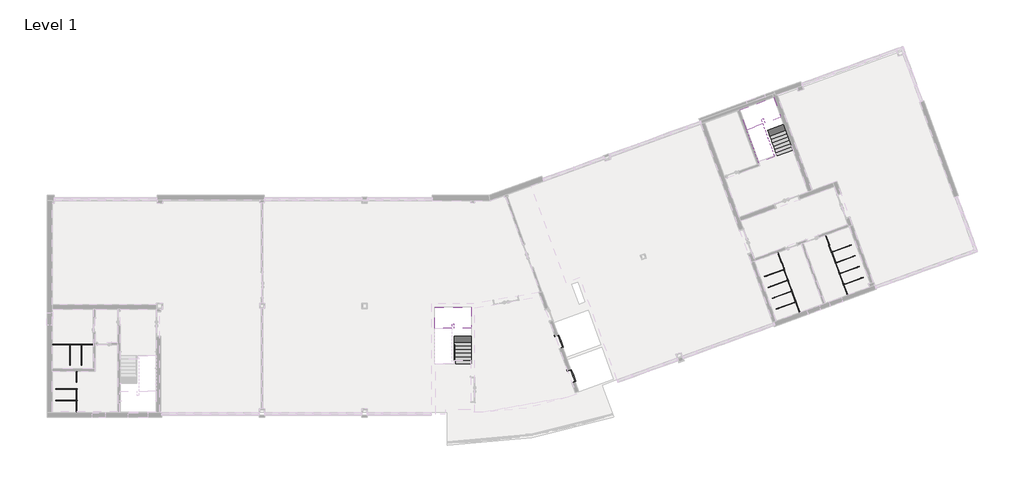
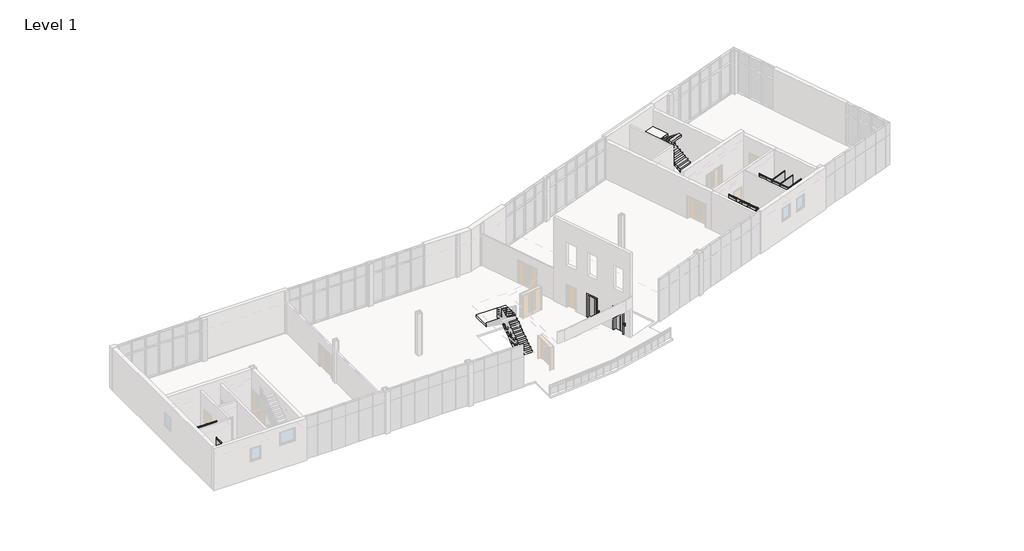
# One storey, part 12 of 12: 19 flow terminals, 3 stair flights, 2 proxies, 2 slabs.
"""IFC4 building model written with IfcOpenShell, lengths in millimetres."""

from ifc_helpers import new_model, si_unit, frame, origin, place, context, project, spatial, polyline, outline, extrude, faceted_brep, transform, mapped, element, save
from components import specialty_equipment_lift_assembly_13_person_wide_car_fb916a52, flow_terminal_2100mm_height_12b2e6eb, flow_terminal_2100mm_height_2c32aa6e, flow_terminal_2100mm_height_1f2eed72, flow_terminal_2100mm_height_0595ce71, flow_terminal_2100mm_height_6680c838, plumbing_fixtures_cubicle_corner_end_2100mm_height_8010d271, plumbing_fixtures_cubicle_corner_end_2100mm_height_71efdfa1

model = new_model("IFC4")

# Units and contexts
model_context = context("Model", 3, world=origin())
ifc_project = project(units=[si_unit("LENGTHUNIT", "METRE", prefix="MILLI")], contexts=[model_context])

# Site, building, storey
site = spatial("IfcSite", under=ifc_project)
building = spatial("IfcBuilding", under=site)
storey = spatial("IfcBuildingStorey", under=building, Name="Level 1", Elevation=3900.0)

# Proxies
placement = place(None, origin())
specialty_equipment_lift_assembly_13_person_wide_car_shape = specialty_equipment_lift_assembly_13_person_wide_car_fb916a52(model_context)
element("IfcBuildingElementProxy", 1, Name="Specialty_Equipment_Lift_Assembly : 13_Person-Wide_Car", ObjectType="Specialty_Equipment_Lift_Assembly : 13_Person-Wide_Car", at=placement, inside=storey, context=model_context, shape_type="MappedRepresentation", body=[
    mapped(specialty_equipment_lift_assembly_13_person_wide_car_shape, transform((36402.6729076, 5528.4769866, 3900.0), x_axis=(-0.34202014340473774, 0.9396926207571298, 0.0), y_axis=(-0.9396926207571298, -0.34202014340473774, 0.0), z_axis=(0.0, 0.0, 1.0))),
])
element("IfcBuildingElementProxy", 2, Name="Specialty_Equipment_Lift_Assembly : 13_Person-Wide_Car", ObjectType="Specialty_Equipment_Lift_Assembly : 13_Person-Wide_Car", at=placement, inside=storey, context=model_context, shape_type="MappedRepresentation", body=[
    mapped(specialty_equipment_lift_assembly_13_person_wide_car_shape, transform((37291.5468029, 3086.3160311, 3900.0), x_axis=(-0.34202014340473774, 0.9396926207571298, 0.0), y_axis=(-0.9396926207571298, -0.34202014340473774, 0.0), z_axis=(0.0, 0.0, 1.0))),
])

# Flow terminals
flow_terminal_2100mm_height_shape = flow_terminal_2100mm_height_12b2e6eb(model_context)
element("IfcFlowTerminal", 3, ObjectType="Plumbing_Fixtures_Toilet_Cubicle_End_Adjacent_Wall : 2100mm_Height", at=placement, inside=storey, context=model_context, shape_type="MappedRepresentation", body=[
    mapped(flow_terminal_2100mm_height_shape, transform((50541.393351, 10685.9180507, 3900.0), x_axis=(-0.3420201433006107, 0.9396926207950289, 0.0), y_axis=(-0.9396926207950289, -0.3420201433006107, 0.0), z_axis=(0.0, 0.0, 1.0))),
])
element("IfcFlowTerminal", 4, ObjectType="Plumbing_Fixtures_Toilet_Cubicle_End_Adjacent_Wall : 2100mm_Height", at=placement, inside=storey, context=model_context, shape_type="MappedRepresentation", body=[
    mapped(flow_terminal_2100mm_height_shape, transform((383.0, 2814.5689301, 3900.0), x_axis=(2.5442148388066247e-11, 1.0, 0.0), y_axis=(-1.0, 2.5442148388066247e-11, 0.0), z_axis=(0.0, 0.0, 1.0))),
])
element("IfcFlowTerminal", 5, ObjectType="Plumbing_Fixtures_Toilet_Cubicle_End_Adjacent_Wall : 2100mm_Height", at=placement, inside=storey, context=model_context, shape_type="MappedRepresentation", body=[
    mapped(flow_terminal_2100mm_height_shape, transform((830.9310712, 3326.5000005, 3900.0), x_axis=(-1.0, 2.5443536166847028e-11, 0.0), y_axis=(-2.5443536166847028e-11, -1.0, 0.0), z_axis=(0.0, 0.0, 1.0))),
])
flow_terminal_2100mm_height_2_shape = flow_terminal_2100mm_height_2c32aa6e(model_context)
element("IfcFlowTerminal", 6, ObjectType="Plumbing_Fixtures_Toilet_Cubicle_End_Adjacent_Wall : 2100mm_Height", at=placement, inside=storey, context=model_context, shape_type="MappedRepresentation", body=[
    mapped(flow_terminal_2100mm_height_2_shape, transform((57283.6879051, 13139.9125789, 3900.0), x_axis=(-0.3420201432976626, 0.9396926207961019, 0.0), y_axis=(-0.9396926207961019, -0.3420201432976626, 0.0), z_axis=(0.0, 0.0, 1.0))),
])
flow_terminal_2100mm_height_3_shape = flow_terminal_2100mm_height_1f2eed72(model_context)
element("IfcFlowTerminal", 7, ObjectType="Plumbing_Fixtures_Toile_Cubicle_Extension_Panel : 2100mm_Height", at=placement, inside=storey, context=model_context, shape_type="MappedRepresentation", body=[
    mapped(flow_terminal_2100mm_height_3_shape, transform((50976.9218015, 9489.3134675, 3900.0), x_axis=(-0.34202014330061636, 0.9396926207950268, 0.0), y_axis=(-0.9396926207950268, -0.34202014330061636, 0.0), z_axis=(0.0, 0.0, 1.0))),
])
flow_terminal_2100mm_height_4_shape = flow_terminal_2100mm_height_0595ce71(model_context)
element("IfcFlowTerminal", 8, ObjectType="Plumbing_Fixtures_Toile_Cubicle_Extension_Panel : 2100mm_Height", at=placement, inside=storey, context=model_context, shape_type="MappedRepresentation", body=[
    mapped(flow_terminal_2100mm_height_4_shape, transform((57719.2163556, 11943.3079956, 3900.0), x_axis=(-0.3420201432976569, 0.9396926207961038, 0.0), y_axis=(-0.9396926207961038, -0.3420201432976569, 0.0), z_axis=(0.0, 0.0, 1.0))),
])
flow_terminal_2100mm_height_5_shape = flow_terminal_2100mm_height_6680c838(model_context)
element("IfcFlowTerminal", 9, ObjectType="Plumbing_Fixtures_Toile_Cubicle_Extension_Panel : 2100mm_Height", at=placement, inside=storey, context=model_context, shape_type="MappedRepresentation", body=[
    mapped(flow_terminal_2100mm_height_5_shape, transform((2080.4310713, 3326.5000005, 3900.0), x_axis=(-1.0, 0.0, 0.0), y_axis=(0.0, -1.0, 0.0), z_axis=(0.0, 0.0, 1.0))),
])
plumbing_fixtures_cubicle_corner_end_2100mm_height_shape = plumbing_fixtures_cubicle_corner_end_2100mm_height_8010d271(model_context)
element("IfcFlowTerminal", 10, ObjectType="Plumbing_Fixtures_Cubicle_Corner_End : 2100mm_Height", at=placement, inside=storey, context=model_context, shape_type="MappedRepresentation", body=[
    mapped(plumbing_fixtures_cubicle_corner_end_2100mm_height_shape, transform((58572.2617435, 9599.5850544, 3900.0), x_axis=(0.3420201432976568, -0.9396926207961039, 0.0), y_axis=(0.9396926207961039, 0.3420201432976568, 0.0), z_axis=(0.0, 0.0, 1.0))),
])
element("IfcFlowTerminal", 11, ObjectType="Plumbing_Fixtures_Cubicle_Corner_End : 2100mm_Height", at=placement, inside=storey, context=model_context, shape_type="MappedRepresentation", body=[
    mapped(plumbing_fixtures_cubicle_corner_end_2100mm_height_shape, transform((58291.805226, 10370.1330034, 3900.0), x_axis=(0.3420201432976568, -0.9396926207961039, 0.0), y_axis=(0.9396926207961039, 0.3420201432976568, 0.0), z_axis=(0.0, 0.0, 1.0))),
])
element("IfcFlowTerminal", 12, ObjectType="Plumbing_Fixtures_Cubicle_Corner_End : 2100mm_Height", at=placement, inside=storey, context=model_context, shape_type="MappedRepresentation", body=[
    mapped(plumbing_fixtures_cubicle_corner_end_2100mm_height_shape, transform((58011.3487085, 11140.6809525, 3900.0), x_axis=(0.3420201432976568, -0.9396926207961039, 0.0), y_axis=(0.9396926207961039, 0.3420201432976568, 0.0), z_axis=(0.0, 0.0, 1.0))),
])
element("IfcFlowTerminal", 13, ObjectType="Plumbing_Fixtures_Cubicle_Corner_End : 2100mm_Height", at=placement, inside=storey, context=model_context, shape_type="MappedRepresentation", body=[
    mapped(plumbing_fixtures_cubicle_corner_end_2100mm_height_shape, transform((57730.892191, 11911.2289015, 3900.0), x_axis=(0.3420201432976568, -0.9396926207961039, 0.0), y_axis=(0.9396926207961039, 0.3420201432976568, 0.0), z_axis=(0.0, 0.0, 1.0))),
])
plumbing_fixtures_cubicle_corner_end_2100mm_height_2_shape = plumbing_fixtures_cubicle_corner_end_2100mm_height_71efdfa1(model_context)
element("IfcFlowTerminal", 14, ObjectType="Plumbing_Fixtures_Cubicle_Corner_End : 2100mm_Height", at=placement, inside=storey, context=model_context, shape_type="MappedRepresentation", body=[
    mapped(plumbing_fixtures_cubicle_corner_end_2100mm_height_2_shape, transform((51829.9671894, 7145.5905262, 3900.0), x_axis=(0.3420201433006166, -0.9396926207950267, 0.0), y_axis=(0.9396926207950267, 0.3420201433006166, 0.0), z_axis=(0.0, 0.0, 1.0))),
])
element("IfcFlowTerminal", 15, ObjectType="Plumbing_Fixtures_Cubicle_Corner_End : 2100mm_Height", at=placement, inside=storey, context=model_context, shape_type="MappedRepresentation", body=[
    mapped(plumbing_fixtures_cubicle_corner_end_2100mm_height_2_shape, transform((51549.5106719, 7916.1384753, 3900.0), x_axis=(0.3420201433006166, -0.9396926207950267, 0.0), y_axis=(0.9396926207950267, 0.3420201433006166, 0.0), z_axis=(0.0, 0.0, 1.0))),
])
element("IfcFlowTerminal", 16, ObjectType="Plumbing_Fixtures_Cubicle_Corner_End : 2100mm_Height", at=placement, inside=storey, context=model_context, shape_type="MappedRepresentation", body=[
    mapped(plumbing_fixtures_cubicle_corner_end_2100mm_height_2_shape, transform((51269.0541544, 8686.6864243, 3900.0), x_axis=(0.3420201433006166, -0.9396926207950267, 0.0), y_axis=(0.9396926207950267, 0.3420201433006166, 0.0), z_axis=(0.0, 0.0, 1.0))),
])
element("IfcFlowTerminal", 17, ObjectType="Plumbing_Fixtures_Cubicle_Corner_End : 2100mm_Height", at=placement, inside=storey, context=model_context, shape_type="MappedRepresentation", body=[
    mapped(plumbing_fixtures_cubicle_corner_end_2100mm_height_2_shape, transform((50988.5976369, 9457.2343734, 3900.0), x_axis=(0.3420201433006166, -0.9396926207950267, 0.0), y_axis=(0.9396926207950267, 0.3420201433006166, 0.0), z_axis=(0.0, 0.0, 1.0))),
])
element("IfcFlowTerminal", 18, ObjectType="Plumbing_Fixtures_Cubicle_Corner_End : 2100mm_Height", at=placement, inside=storey, context=model_context, shape_type="MappedRepresentation", body=[
    mapped(plumbing_fixtures_cubicle_corner_end_2100mm_height_2_shape, transform((383.0, 710.9310711, 3900.0), x_axis=(-2.5442148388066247e-11, -1.0, 0.0), y_axis=(1.0, -2.5442148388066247e-11, 0.0), z_axis=(0.0, 0.0, 1.0))),
])
element("IfcFlowTerminal", 19, ObjectType="Plumbing_Fixtures_Cubicle_Corner_End : 2100mm_Height", at=placement, inside=storey, context=model_context, shape_type="MappedRepresentation", body=[
    mapped(plumbing_fixtures_cubicle_corner_end_2100mm_height_2_shape, transform((383.0, 1530.9310711, 3900.0), x_axis=(-2.5442148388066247e-11, -1.0, 0.0), y_axis=(1.0, -2.5442148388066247e-11, 0.0), z_axis=(0.0, 0.0, 1.0))),
])
element("IfcFlowTerminal", 20, ObjectType="Plumbing_Fixtures_Cubicle_Corner_End : 2100mm_Height", at=placement, inside=storey, context=model_context, shape_type="MappedRepresentation", body=[
    mapped(plumbing_fixtures_cubicle_corner_end_2100mm_height_2_shape, transform((2934.5689301, 3326.5000005, 3900.0), x_axis=(1.0, -2.5443536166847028e-11, 0.0), y_axis=(2.5443536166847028e-11, 1.0, 0.0), z_axis=(0.0, 0.0, 1.0))),
])
element("IfcFlowTerminal", 21, ObjectType="Plumbing_Fixtures_Cubicle_Corner_End : 2100mm_Height", at=placement, inside=storey, context=model_context, shape_type="MappedRepresentation", body=[
    mapped(plumbing_fixtures_cubicle_corner_end_2100mm_height_2_shape, transform((2114.5689301, 3326.5000005, 3900.0), x_axis=(1.0, -2.5443536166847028e-11, 0.0), y_axis=(2.5443536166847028e-11, 1.0, 0.0), z_axis=(0.0, 0.0, 1.0))),
])

# Slabs
element("IfcSlab", 22, ObjectType="200mm_Thickness", at=placement, inside=storey, context=model_context, shape_type="SolidModel", body=[
    faceted_brep([(29052.2000029, 6263.2000006, 5849.0), (30252.200003, 6263.2000006, 5849.0), (30252.200003, 6490.4719159, 5849.0), (30252.200003, 7763.2000004, 5849.0), (27662.2000031, 7763.2000004, 5849.0), (27662.2000031, 6285.9280852, 5849.0), (27662.2000031, 6263.2000006, 5849.0), (28862.2000029, 6263.2000006, 5849.0), (28862.2000029, 6285.9280852, 5849.0), (28862.2000029, 6563.2000006, 5849.0), (29052.2000029, 6563.2000006, 5849.0), (29052.2000029, 6490.4719159, 5849.0), (29052.2000029, 6263.2000006, 5487.8435509), (29052.2000029, 6263.2000006, 5671.7272727), (29052.2000029, 6563.2000006, 5649.0), (29052.2000029, 6490.4719159, 5649.0), (30252.200003, 6263.2000006, 5671.7272727), (30252.200003, 6263.2000006, 5487.8435509), (30252.200003, 6490.4719159, 5649.0), (30252.200003, 7763.2000004, 5649.0), (28862.2000029, 6263.2000006, 5665.1162782), (28862.2000029, 6285.9280852, 5649.0), (28862.2000029, 6563.2000006, 5649.0), (27662.2000031, 6285.9280852, 5649.0), (27662.2000031, 7763.2000004, 5649.0), (27662.2000031, 6263.2000006, 5665.1162782)], [[[0, 1, 2, 3, 4, 5, 6, 7, 8, 9, 10, 11]], [[12, 13, 0, 11, 10, 14, 15]], [[1, 16, 17, 18, 19, 3, 2]], [[7, 20, 21, 22, 9, 8]], [[18, 15, 14, 22, 21, 23, 24, 19]], [[15, 18, 17, 12]], [[23, 21, 20, 25]], [[1, 0, 13, 12, 17, 16]], [[4, 3, 19, 24]], [[4, 24, 23, 25, 6, 5]], [[7, 6, 25, 20]], [[10, 9, 22, 14]]]),
    extrude(outline(polyline([(29052.2000029, 6263.2000006), (29052.2000029, 6563.2000006), (28862.2000029, 6563.2000006), (28862.2000029, 6263.2000006), (27662.2000031, 6263.2000006), (27662.2000031, 7763.2000004), (30252.200003, 7763.2000004), (30252.200003, 6263.2000006), (29052.2000029, 6263.2000006)])), frame((0.0, 0.0, 5849.0), z_axis=(0.0, 0.0, 1.0), x_axis=(1.0, 0.0, 0.0)), (0.0, 0.0, 1.0), 1.0),
])
element("IfcSlab", 23, ObjectType="200mm_Thickness", at=placement, inside=storey, context=model_context, shape_type="SolidModel", body=[
    faceted_brep([(51174.021156, 20890.1085605, 5849.0), (52301.652301, 21300.5327324, 5849.0), (52223.920728, 21514.0984742, 5849.0), (51788.6220861, 22710.0716635, 5849.0), (49354.8181983, 21824.2394924, 5849.0), (49860.0749505, 20436.0579748, 5849.0), (49867.8484132, 20414.7005613, 5849.0), (50995.479558, 20825.1247332, 5849.0), (50987.7060952, 20846.4821467, 5849.0), (50892.873515, 21107.0325195, 5849.0), (51071.415113, 21172.0163467, 5849.0), (51096.2895829, 21103.6743022, 5849.0), (51174.021156, 20890.1085605, 5487.8435509), (51174.021156, 20890.1085605, 5671.7272727), (51071.415113, 21172.0163467, 5649.0), (51096.2895829, 21103.6743022, 5649.0), (52301.652301, 21300.5327324, 5671.7272727), (52301.652301, 21300.5327324, 5487.8435509), (52223.920728, 21514.0984742, 5649.0), (51788.6220861, 22710.0716635, 5649.0), (50995.479558, 20825.1247332, 5665.1162782), (50987.7060952, 20846.4821467, 5649.0), (50892.873515, 21107.0325195, 5649.0), (49860.0749505, 20436.0579748, 5649.0), (49354.8181983, 21824.2394924, 5649.0), (49867.8484132, 20414.7005613, 5665.1162782)], [[[0, 1, 2, 3, 4, 5, 6, 7, 8, 9, 10, 11]], [[12, 13, 0, 11, 10, 14, 15]], [[1, 16, 17, 18, 19, 3, 2]], [[7, 20, 21, 22, 9, 8]], [[18, 15, 14, 22, 21, 23, 24, 19]], [[15, 18, 17, 12]], [[23, 21, 20, 25]], [[1, 0, 13, 12, 17, 16]], [[4, 3, 19, 24]], [[4, 24, 23, 25, 6, 5]], [[7, 6, 25, 20]], [[10, 9, 22, 14]]]),
    extrude(outline(polyline([(51174.021156, 20890.1085605), (51071.415113, 21172.0163467), (50892.873515, 21107.0325195), (50995.479558, 20825.1247332), (49867.8484132, 20414.7005613), (49354.8181983, 21824.2394924), (51788.6220861, 22710.0716635), (52301.652301, 21300.5327324), (51174.021156, 20890.1085605)])), frame((0.0, 0.0, 5849.0), z_axis=(0.0, 0.0, 1.0), x_axis=(1.0, 0.0, 0.0)), (0.0, 0.0, 1.0), 1.0),
])

# Stair flights
element("IfcStairFlight", 24, ObjectType="1mm_Tread-150mm_Depth", at=placement, inside=storey, context=model_context, shape_type="SolidModel", body=[
    faceted_brep([(29052.2000029, 4013.2000006, 4076.2727273), (29052.2000029, 3763.2000006, 4076.2727273), (30252.200003, 3763.2000006, 4076.2727273), (30252.200003, 4013.2000006, 4076.2727273), (29052.2000029, 4013.2000006, 3900.0), (29052.2000029, 3763.2000006, 3900.0), (30252.200003, 3763.2000006, 3900.0), (30252.200003, 4013.2000006, 3900.0), (29052.2000029, 4263.2000006, 4253.5454545), (29052.2000029, 4013.2000006, 4253.5454545), (30252.200003, 4013.2000006, 4253.5454545), (30252.200003, 4263.2000006, 4253.5454545), (29052.2000029, 4263.2000006, 4069.6617328), (29052.2000029, 4023.9334544, 3900.0), (30252.200003, 4023.9334544, 3900.0), (30252.200003, 4263.2000006, 4069.6617328), (29052.2000029, 4513.2000006, 4430.8181818), (29052.2000029, 4263.2000006, 4430.8181818), (30252.200003, 4263.2000006, 4430.8181818), (30252.200003, 4513.2000006, 4430.8181818), (29052.2000029, 4513.2000006, 4246.93446), (30252.200003, 4513.2000006, 4246.93446), (29052.2000029, 4763.2000006, 4608.0909091), (29052.2000029, 4513.2000006, 4608.0909091), (30252.200003, 4513.2000006, 4608.0909091), (30252.200003, 4763.2000006, 4608.0909091), (29052.2000029, 4763.2000006, 4424.2071873), (30252.200003, 4763.2000006, 4424.2071873), (29052.2000029, 5013.2000006, 4785.3636364), (29052.2000029, 4763.2000006, 4785.3636364), (30252.200003, 4763.2000006, 4785.3636364), (30252.200003, 5013.2000006, 4785.3636364), (29052.2000029, 5013.2000006, 4601.4799146), (30252.200003, 5013.2000006, 4601.4799146), (29052.2000029, 5263.2000006, 4962.6363636), (29052.2000029, 5013.2000006, 4962.6363636), (30252.200003, 5013.2000006, 4962.6363636), (30252.200003, 5263.2000006, 4962.6363636), (29052.2000029, 5263.2000006, 4778.7526418), (30252.200003, 5263.2000006, 4778.7526418), (29052.2000029, 5513.2000006, 5139.9090909), (29052.2000029, 5263.2000006, 5139.9090909), (30252.200003, 5263.2000006, 5139.9090909), (30252.200003, 5513.2000006, 5139.9090909), (29052.2000029, 5513.2000006, 4956.0253691), (30252.200003, 5513.2000006, 4956.0253691), (29052.2000029, 5763.2000006, 5317.1818182), (29052.2000029, 5513.2000006, 5317.1818182), (30252.200003, 5513.2000006, 5317.1818182), (30252.200003, 5763.2000006, 5317.1818182), (29052.2000029, 5763.2000006, 5133.2980964), (30252.200003, 5763.2000006, 5133.2980964), (29052.2000029, 6013.2000006, 5494.4545455), (29052.2000029, 5763.2000006, 5494.4545455), (30252.200003, 5763.2000006, 5494.4545455), (30252.200003, 6013.2000006, 5494.4545455), (29052.2000029, 6013.2000006, 5310.5708237), (30252.200003, 6013.2000006, 5310.5708237), (29052.2000029, 6263.2000006, 5487.8435509), (30252.200003, 6263.2000006, 5487.8435509), (29052.2000029, 6263.2000006, 5671.7272727), (29052.2000029, 6013.2000006, 5671.7272727), (30252.200003, 6013.2000006, 5671.7272727), (30252.200003, 6263.2000006, 5671.7272727)], [[[0, 1, 2, 3]], [[1, 0, 4, 5]], [[2, 1, 5, 6]], [[3, 2, 6, 7]], [[8, 9, 10, 11]], [[4, 0, 9, 8, 12, 13]], [[0, 3, 10, 9]], [[3, 7, 14, 15, 11, 10]], [[16, 17, 18, 19]], [[17, 16, 20, 12, 8]], [[8, 11, 18, 17]], [[19, 18, 11, 15, 21]], [[22, 23, 24, 25]], [[23, 22, 26, 20, 16]], [[16, 19, 24, 23]], [[25, 24, 19, 21, 27]], [[28, 29, 30, 31]], [[29, 28, 32, 26, 22]], [[22, 25, 30, 29]], [[31, 30, 25, 27, 33]], [[34, 35, 36, 37]], [[35, 34, 38, 32, 28]], [[28, 31, 36, 35]], [[37, 36, 31, 33, 39]], [[40, 41, 42, 43]], [[41, 40, 44, 38, 34]], [[34, 37, 42, 41]], [[43, 42, 37, 39, 45]], [[46, 47, 48, 49]], [[47, 46, 50, 44, 40]], [[40, 43, 48, 47]], [[49, 48, 43, 45, 51]], [[52, 53, 54, 55]], [[53, 52, 56, 50, 46]], [[46, 49, 54, 53]], [[55, 54, 49, 51, 57]], [[5, 4, 13, 14, 7, 6]], [[14, 13, 12, 20, 26, 32, 38, 44, 50, 56, 58, 59, 57, 51, 45, 39, 33, 27, 21, 15]], [[60, 61, 62, 63]], [[61, 60, 58, 56, 52]], [[52, 55, 62, 61]], [[63, 62, 55, 57, 59]], [[60, 63, 59, 58]]]),
    extrude(outline(polyline([(29052.2000029, 4013.2000006), (30252.200003, 4013.2000006), (30252.200003, 3763.2000006), (29052.2000029, 3763.2000006), (29052.2000029, 4013.2000006)])), frame((0.0, 0.0, 4076.2727273), z_axis=(0.0, 0.0, 1.0), x_axis=(1.0, 0.0, 0.0)), (0.0, 0.0, 1.0), 1.0),
    extrude(outline(polyline([(29052.2000029, 4263.2000006), (30252.200003, 4263.2000006), (30252.200003, 4013.2000006), (29052.2000029, 4013.2000006), (29052.2000029, 4263.2000006)])), frame((0.0, 0.0, 4253.5454545), z_axis=(0.0, 0.0, 1.0), x_axis=(1.0, 0.0, 0.0)), (0.0, 0.0, 1.0), 1.0),
    extrude(outline(polyline([(29052.2000029, 4513.2000006), (30252.200003, 4513.2000006), (30252.200003, 4263.2000006), (29052.2000029, 4263.2000006), (29052.2000029, 4513.2000006)])), frame((0.0, 0.0, 4430.8181818), z_axis=(0.0, 0.0, 1.0), x_axis=(1.0, 0.0, 0.0)), (0.0, 0.0, 1.0), 1.0),
    extrude(outline(polyline([(29052.2000029, 4763.2000006), (30252.200003, 4763.2000006), (30252.200003, 4513.2000006), (29052.2000029, 4513.2000006), (29052.2000029, 4763.2000006)])), frame((0.0, 0.0, 4608.0909091), z_axis=(0.0, 0.0, 1.0), x_axis=(1.0, 0.0, 0.0)), (0.0, 0.0, 1.0), 1.0),
    extrude(outline(polyline([(29052.2000029, 5013.2000006), (30252.200003, 5013.2000006), (30252.200003, 4763.2000006), (29052.2000029, 4763.2000006), (29052.2000029, 5013.2000006)])), frame((0.0, 0.0, 4785.3636364), z_axis=(0.0, 0.0, 1.0), x_axis=(1.0, 0.0, 0.0)), (0.0, 0.0, 1.0), 1.0),
    extrude(outline(polyline([(29052.2000029, 5263.2000006), (30252.200003, 5263.2000006), (30252.200003, 5013.2000006), (29052.2000029, 5013.2000006), (29052.2000029, 5263.2000006)])), frame((0.0, 0.0, 4962.6363636), z_axis=(0.0, 0.0, 1.0), x_axis=(1.0, 0.0, 0.0)), (0.0, 0.0, 1.0), 1.0),
    extrude(outline(polyline([(29052.2000029, 5513.2000006), (30252.200003, 5513.2000006), (30252.200003, 5263.2000006), (29052.2000029, 5263.2000006), (29052.2000029, 5513.2000006)])), frame((0.0, 0.0, 5139.9090909), z_axis=(0.0, 0.0, 1.0), x_axis=(1.0, 0.0, 0.0)), (0.0, 0.0, 1.0), 1.0),
    extrude(outline(polyline([(29052.2000029, 5763.2000006), (30252.200003, 5763.2000006), (30252.200003, 5513.2000006), (29052.2000029, 5513.2000006), (29052.2000029, 5763.2000006)])), frame((0.0, 0.0, 5317.1818182), z_axis=(0.0, 0.0, 1.0), x_axis=(1.0, 0.0, 0.0)), (0.0, 0.0, 1.0), 1.0),
    extrude(outline(polyline([(29052.2000029, 6013.2000006), (30252.200003, 6013.2000006), (30252.200003, 5763.2000006), (29052.2000029, 5763.2000006), (29052.2000029, 6013.2000006)])), frame((0.0, 0.0, 5494.4545455), z_axis=(0.0, 0.0, 1.0), x_axis=(1.0, 0.0, 0.0)), (0.0, 0.0, 1.0), 1.0),
    extrude(outline(polyline([(29052.2000029, 6263.2000006), (30252.200003, 6263.2000006), (30252.200003, 6013.2000006), (29052.2000029, 6013.2000006), (29052.2000029, 6263.2000006)])), frame((0.0, 0.0, 5671.7272727), z_axis=(0.0, 0.0, 1.0), x_axis=(1.0, 0.0, 0.0)), (0.0, 0.0, 1.0), 1.0),
])
element("IfcStairFlight", 25, ObjectType="1mm_Tread-150mm_Depth", at=placement, inside=storey, context=model_context, shape_type="SolidModel", body=[
    faceted_brep([(51943.5664784, 18775.8001637, 4076.2727273), (52029.0715142, 18540.8770085, 4076.2727273), (53156.7026593, 18951.3011804, 4076.2727273), (53071.1976234, 19186.2243356, 4076.2727273), (51943.5664784, 18775.8001637, 3900.0), (52029.0715142, 18540.8770085, 3900.0), (53156.7026593, 18951.3011804, 3900.0), (53071.1976234, 19186.2243356, 3900.0), (51858.0614426, 19010.7233189, 4253.5454545), (51943.5664784, 18775.8001637, 4253.5454545), (53071.1976234, 19186.2243356, 4253.5454545), (52985.6925876, 19421.1474908, 4253.5454545), (51858.0614426, 19010.7233189, 4069.6617328), (51939.895421, 18785.886311, 3900.0), (53067.526566, 19196.310483, 3900.0), (52985.6925876, 19421.1474908, 4069.6617328), (51772.5564067, 19245.6464741, 4430.8181818), (51858.0614426, 19010.7233189, 4430.8181818), (52985.6925876, 19421.1474908, 4430.8181818), (52900.1875518, 19656.070646, 4430.8181818), (51772.5564067, 19245.6464741, 4246.93446), (52900.1875518, 19656.070646, 4246.93446), (51687.0513709, 19480.5696293, 4608.0909091), (51772.5564067, 19245.6464741, 4608.0909091), (52900.1875518, 19656.070646, 4608.0909091), (52814.682516, 19890.9938012, 4608.0909091), (51687.0513709, 19480.5696293, 4424.2071873), (52814.682516, 19890.9938012, 4424.2071873), (51601.5463351, 19715.4927845, 4785.3636364), (51687.0513709, 19480.5696293, 4785.3636364), (52814.682516, 19890.9938012, 4785.3636364), (52729.1774801, 20125.9169564, 4785.3636364), (51601.5463351, 19715.4927845, 4601.4799146), (52729.1774801, 20125.9169564, 4601.4799146), (51516.0412993, 19950.4159397, 4962.6363636), (51601.5463351, 19715.4927845, 4962.6363636), (52729.1774801, 20125.9169564, 4962.6363636), (52643.6724443, 20360.8401116, 4962.6363636), (51516.0412993, 19950.4159397, 4778.7526418), (52643.6724443, 20360.8401116, 4778.7526418), (51430.5362634, 20185.3390949, 5139.9090909), (51516.0412993, 19950.4159397, 5139.9090909), (52643.6724443, 20360.8401116, 5139.9090909), (52558.1674085, 20595.7632668, 5139.9090909), (51430.5362634, 20185.3390949, 4956.0253691), (52558.1674085, 20595.7632668, 4956.0253691), (51345.0312276, 20420.2622501, 5317.1818182), (51430.5362634, 20185.3390949, 5317.1818182), (52558.1674085, 20595.7632668, 5317.1818182), (52472.6623727, 20830.686422, 5317.1818182), (51345.0312276, 20420.2622501, 5133.2980964), (52472.6623727, 20830.686422, 5133.2980964), (51259.5261918, 20655.1854053, 5494.4545455), (51345.0312276, 20420.2622501, 5494.4545455), (52472.6623727, 20830.686422, 5494.4545455), (52387.1573368, 21065.6095772, 5494.4545455), (51259.5261918, 20655.1854053, 5310.5708237), (52387.1573368, 21065.6095772, 5310.5708237), (51174.021156, 20890.1085605, 5487.8435509), (52301.652301, 21300.5327324, 5487.8435509), (51174.021156, 20890.1085605, 5671.7272727), (51259.5261918, 20655.1854053, 5671.7272727), (52387.1573368, 21065.6095772, 5671.7272727), (52301.652301, 21300.5327324, 5671.7272727)], [[[0, 1, 2, 3]], [[1, 0, 4, 5]], [[2, 1, 5, 6]], [[3, 2, 6, 7]], [[8, 9, 10, 11]], [[4, 0, 9, 8, 12, 13]], [[0, 3, 10, 9]], [[3, 7, 14, 15, 11, 10]], [[16, 17, 18, 19]], [[17, 16, 20, 12, 8]], [[8, 11, 18, 17]], [[19, 18, 11, 15, 21]], [[22, 23, 24, 25]], [[23, 22, 26, 20, 16]], [[16, 19, 24, 23]], [[25, 24, 19, 21, 27]], [[28, 29, 30, 31]], [[29, 28, 32, 26, 22]], [[22, 25, 30, 29]], [[31, 30, 25, 27, 33]], [[34, 35, 36, 37]], [[35, 34, 38, 32, 28]], [[28, 31, 36, 35]], [[37, 36, 31, 33, 39]], [[40, 41, 42, 43]], [[41, 40, 44, 38, 34]], [[34, 37, 42, 41]], [[43, 42, 37, 39, 45]], [[46, 47, 48, 49]], [[47, 46, 50, 44, 40]], [[40, 43, 48, 47]], [[49, 48, 43, 45, 51]], [[52, 53, 54, 55]], [[53, 52, 56, 50, 46]], [[46, 49, 54, 53]], [[55, 54, 49, 51, 57]], [[5, 4, 13, 14, 7, 6]], [[14, 13, 12, 20, 26, 32, 38, 44, 50, 56, 58, 59, 57, 51, 45, 39, 33, 27, 21, 15]], [[60, 61, 62, 63]], [[61, 60, 58, 56, 52]], [[52, 55, 62, 61]], [[63, 62, 55, 57, 59]], [[60, 63, 59, 58]]]),
    extrude(outline(polyline([(51943.5664784, 18775.8001637), (53071.1976234, 19186.2243356), (53156.7026593, 18951.3011804), (52029.0715142, 18540.8770085), (51943.5664784, 18775.8001637)])), frame((0.0, 0.0, 4076.2727273), z_axis=(0.0, 0.0, 1.0), x_axis=(1.0, 0.0, 0.0)), (0.0, 0.0, 1.0), 1.0),
    extrude(outline(polyline([(51858.0614426, 19010.7233189), (52985.6925876, 19421.1474908), (53071.1976234, 19186.2243356), (51943.5664784, 18775.8001637), (51858.0614426, 19010.7233189)])), frame((0.0, 0.0, 4253.5454545), z_axis=(0.0, 0.0, 1.0), x_axis=(1.0, 0.0, 0.0)), (0.0, 0.0, 1.0), 1.0),
    extrude(outline(polyline([(51772.5564067, 19245.6464741), (52900.1875518, 19656.070646), (52985.6925876, 19421.1474908), (51858.0614426, 19010.7233189), (51772.5564067, 19245.6464741)])), frame((0.0, 0.0, 4430.8181818), z_axis=(0.0, 0.0, 1.0), x_axis=(1.0, 0.0, 0.0)), (0.0, 0.0, 1.0), 1.0),
    extrude(outline(polyline([(51687.0513709, 19480.5696293), (52814.682516, 19890.9938012), (52900.1875518, 19656.070646), (51772.5564067, 19245.6464741), (51687.0513709, 19480.5696293)])), frame((0.0, 0.0, 4608.0909091), z_axis=(0.0, 0.0, 1.0), x_axis=(1.0, 0.0, 0.0)), (0.0, 0.0, 1.0), 1.0),
    extrude(outline(polyline([(51601.5463351, 19715.4927845), (52729.1774801, 20125.9169564), (52814.682516, 19890.9938012), (51687.0513709, 19480.5696293), (51601.5463351, 19715.4927845)])), frame((0.0, 0.0, 4785.3636364), z_axis=(0.0, 0.0, 1.0), x_axis=(1.0, 0.0, 0.0)), (0.0, 0.0, 1.0), 1.0),
    extrude(outline(polyline([(51516.0412993, 19950.4159397), (52643.6724443, 20360.8401116), (52729.1774801, 20125.9169564), (51601.5463351, 19715.4927845), (51516.0412993, 19950.4159397)])), frame((0.0, 0.0, 4962.6363636), z_axis=(0.0, 0.0, 1.0), x_axis=(1.0, 0.0, 0.0)), (0.0, 0.0, 1.0), 1.0),
    extrude(outline(polyline([(51430.5362634, 20185.3390949), (52558.1674085, 20595.7632668), (52643.6724443, 20360.8401116), (51516.0412993, 19950.4159397), (51430.5362634, 20185.3390949)])), frame((0.0, 0.0, 5139.9090909), z_axis=(0.0, 0.0, 1.0), x_axis=(1.0, 0.0, 0.0)), (0.0, 0.0, 1.0), 1.0),
    extrude(outline(polyline([(51345.0312276, 20420.2622501), (52472.6623727, 20830.686422), (52558.1674085, 20595.7632668), (51430.5362634, 20185.3390949), (51345.0312276, 20420.2622501)])), frame((0.0, 0.0, 5317.1818182), z_axis=(0.0, 0.0, 1.0), x_axis=(1.0, 0.0, 0.0)), (0.0, 0.0, 1.0), 1.0),
    extrude(outline(polyline([(51259.5261918, 20655.1854053), (52387.1573368, 21065.6095772), (52472.6623727, 20830.686422), (51345.0312276, 20420.2622501), (51259.5261918, 20655.1854053)])), frame((0.0, 0.0, 5494.4545455), z_axis=(0.0, 0.0, 1.0), x_axis=(1.0, 0.0, 0.0)), (0.0, 0.0, 1.0), 1.0),
    extrude(outline(polyline([(51174.021156, 20890.1085605), (52301.652301, 21300.5327324), (52387.1573368, 21065.6095772), (51259.5261918, 20655.1854053), (51174.021156, 20890.1085605)])), frame((0.0, 0.0, 5671.7272727), z_axis=(0.0, 0.0, 1.0), x_axis=(1.0, 0.0, 0.0)), (0.0, 0.0, 1.0), 1.0),
])
element("IfcStairFlight", 26, ObjectType="1mm_Tread-150mm_Depth", at=placement, inside=storey, context=model_context, shape_type="SolidModel", body=[
    faceted_brep([(51080.9845938, 20590.201578, 6026.2727273), (50995.479558, 20825.1247332, 6026.2727273), (49867.8484132, 20414.7005613, 6026.2727273), (49953.3534491, 20179.7774061, 6026.2727273), (51080.9845938, 20590.201578, 5842.3890055), (50995.479558, 20825.1247332, 5665.1162782), (50995.479558, 20825.1247332, 5849.0), (49867.8484132, 20414.7005613, 5665.1162782), (49867.8484132, 20414.7005613, 5849.0), (49953.3534491, 20179.7774061, 5842.3890055), (51166.4896296, 20355.2784228, 6203.5454545), (51080.9845938, 20590.201578, 6203.5454545), (49953.3534491, 20179.7774061, 6203.5454545), (50038.8584849, 19944.8542509, 6203.5454545), (51166.4896296, 20355.2784228, 6019.6617328), (50038.8584849, 19944.8542509, 6019.6617328), (51251.9946655, 20120.3552676, 6380.8181818), (51166.4896296, 20355.2784228, 6380.8181818), (50038.8584849, 19944.8542509, 6380.8181818), (50124.3635207, 19709.9310957, 6380.8181818), (51251.9946655, 20120.3552676, 6196.93446), (50124.3635207, 19709.9310957, 6196.93446), (51337.4997013, 19885.4321124, 6558.0909091), (51251.9946655, 20120.3552676, 6558.0909091), (50124.3635207, 19709.9310957, 6558.0909091), (50209.8685565, 19475.0079405, 6558.0909091), (51337.4997013, 19885.4321124, 6374.2071873), (50209.8685565, 19475.0079405, 6374.2071873), (51423.0047371, 19650.5089572, 6735.3636364), (51337.4997013, 19885.4321124, 6735.3636364), (50209.8685565, 19475.0079405, 6735.3636364), (50295.3735924, 19240.0847853, 6735.3636364), (51423.0047371, 19650.5089572, 6551.4799146), (50295.3735924, 19240.0847853, 6551.4799146), (51508.5097729, 19415.585802, 6912.6363636), (51423.0047371, 19650.5089572, 6912.6363636), (50295.3735924, 19240.0847853, 6912.6363636), (50380.8786282, 19005.1616301, 6912.6363636), (51508.5097729, 19415.585802, 6728.7526418), (50380.8786282, 19005.1616301, 6728.7526418), (51594.0148088, 19180.6626468, 7089.9090909), (51508.5097729, 19415.585802, 7089.9090909), (50380.8786282, 19005.1616301, 7089.9090909), (50466.383664, 18770.2384749, 7089.9090909), (51594.0148088, 19180.6626468, 6906.0253691), (50466.383664, 18770.2384749, 6906.0253691), (51679.5198446, 18945.7394916, 7267.1818182), (51594.0148088, 19180.6626468, 7267.1818182), (50466.383664, 18770.2384749, 7267.1818182), (50551.8886998, 18535.3153197, 7267.1818182), (51679.5198446, 18945.7394916, 7083.2980964), (50551.8886998, 18535.3153197, 7083.2980964), (51765.0248804, 18710.8163364, 7444.4545455), (51679.5198446, 18945.7394916, 7444.4545455), (50551.8886998, 18535.3153197, 7444.4545455), (50637.3937356, 18300.3921645, 7444.4545455), (51765.0248804, 18710.8163364, 7260.5708237), (50637.3937356, 18300.3921645, 7260.5708237), (51850.5299162, 18475.8931812, 7437.8435509), (50722.8987715, 18065.4690093, 7437.8435509), (51850.5299162, 18475.8931812, 7621.7272727), (51765.0248804, 18710.8163364, 7621.7272727), (50637.3937356, 18300.3921645, 7621.7272727), (50722.8987715, 18065.4690093, 7621.7272727)], [[[0, 1, 2, 3]], [[1, 0, 4, 5, 6]], [[2, 1, 6, 5, 7, 8]], [[3, 2, 8, 7, 9]], [[10, 11, 12, 13]], [[11, 10, 14, 4, 0]], [[12, 11, 0, 3]], [[13, 12, 3, 9, 15]], [[16, 17, 18, 19]], [[17, 16, 20, 14, 10]], [[18, 17, 10, 13]], [[19, 18, 13, 15, 21]], [[22, 23, 24, 25]], [[23, 22, 26, 20, 16]], [[24, 23, 16, 19]], [[25, 24, 19, 21, 27]], [[28, 29, 30, 31]], [[29, 28, 32, 26, 22]], [[30, 29, 22, 25]], [[31, 30, 25, 27, 33]], [[34, 35, 36, 37]], [[35, 34, 38, 32, 28]], [[36, 35, 28, 31]], [[37, 36, 31, 33, 39]], [[40, 41, 42, 43]], [[41, 40, 44, 38, 34]], [[42, 41, 34, 37]], [[43, 42, 37, 39, 45]], [[46, 47, 48, 49]], [[47, 46, 50, 44, 40]], [[48, 47, 40, 43]], [[49, 48, 43, 45, 51]], [[52, 53, 54, 55]], [[53, 52, 56, 50, 46]], [[54, 53, 46, 49]], [[55, 54, 49, 51, 57]], [[5, 4, 14, 20, 26, 32, 38, 44, 50, 56, 58, 59, 57, 51, 45, 39, 33, 27, 21, 15, 9, 7]], [[60, 61, 62, 63]], [[61, 60, 58, 56, 52]], [[62, 61, 52, 55]], [[63, 62, 55, 57, 59]], [[60, 63, 59, 58]]]),
    extrude(outline(polyline([(51080.9845938, 20590.201578), (49953.3534491, 20179.7774061), (49867.8484132, 20414.7005613), (50995.479558, 20825.1247332), (51080.9845938, 20590.201578)])), frame((0.0, 0.0, 6026.2727273), z_axis=(0.0, 0.0, 1.0), x_axis=(1.0, 0.0, 0.0)), (0.0, 0.0, 1.0), 1.0),
    extrude(outline(polyline([(51166.4896296, 20355.2784228), (50038.8584849, 19944.8542509), (49953.3534491, 20179.7774061), (51080.9845938, 20590.201578), (51166.4896296, 20355.2784228)])), frame((0.0, 0.0, 6203.5454545), z_axis=(0.0, 0.0, 1.0), x_axis=(1.0, 0.0, 0.0)), (0.0, 0.0, 1.0), 1.0),
    extrude(outline(polyline([(51251.9946655, 20120.3552676), (50124.3635207, 19709.9310957), (50038.8584849, 19944.8542509), (51166.4896296, 20355.2784228), (51251.9946655, 20120.3552676)])), frame((0.0, 0.0, 6380.8181818), z_axis=(0.0, 0.0, 1.0), x_axis=(1.0, 0.0, 0.0)), (0.0, 0.0, 1.0), 1.0),
    extrude(outline(polyline([(51337.4997013, 19885.4321124), (50209.8685565, 19475.0079405), (50124.3635207, 19709.9310957), (51251.9946655, 20120.3552676), (51337.4997013, 19885.4321124)])), frame((0.0, 0.0, 6558.0909091), z_axis=(0.0, 0.0, 1.0), x_axis=(1.0, 0.0, 0.0)), (0.0, 0.0, 1.0), 1.0),
    extrude(outline(polyline([(51423.0047371, 19650.5089572), (50295.3735924, 19240.0847853), (50209.8685565, 19475.0079405), (51337.4997013, 19885.4321124), (51423.0047371, 19650.5089572)])), frame((0.0, 0.0, 6735.3636364), z_axis=(0.0, 0.0, 1.0), x_axis=(1.0, 0.0, 0.0)), (0.0, 0.0, 1.0), 1.0),
    extrude(outline(polyline([(51508.5097729, 19415.585802), (50380.8786282, 19005.1616301), (50295.3735924, 19240.0847853), (51423.0047371, 19650.5089572), (51508.5097729, 19415.585802)])), frame((0.0, 0.0, 6912.6363636), z_axis=(0.0, 0.0, 1.0), x_axis=(1.0, 0.0, 0.0)), (0.0, 0.0, 1.0), 1.0),
    extrude(outline(polyline([(51594.0148088, 19180.6626468), (50466.383664, 18770.2384749), (50380.8786282, 19005.1616301), (51508.5097729, 19415.585802), (51594.0148088, 19180.6626468)])), frame((0.0, 0.0, 7089.9090909), z_axis=(0.0, 0.0, 1.0), x_axis=(1.0, 0.0, 0.0)), (0.0, 0.0, 1.0), 1.0),
    extrude(outline(polyline([(51679.5198446, 18945.7394916), (50551.8886998, 18535.3153197), (50466.383664, 18770.2384749), (51594.0148088, 19180.6626468), (51679.5198446, 18945.7394916)])), frame((0.0, 0.0, 7267.1818182), z_axis=(0.0, 0.0, 1.0), x_axis=(1.0, 0.0, 0.0)), (0.0, 0.0, 1.0), 1.0),
    extrude(outline(polyline([(51765.0248804, 18710.8163364), (50637.3937356, 18300.3921645), (50551.8886998, 18535.3153197), (51679.5198446, 18945.7394916), (51765.0248804, 18710.8163364)])), frame((0.0, 0.0, 7444.4545455), z_axis=(0.0, 0.0, 1.0), x_axis=(1.0, 0.0, 0.0)), (0.0, 0.0, 1.0), 1.0),
    extrude(outline(polyline([(51850.5299162, 18475.8931812), (50722.8987715, 18065.4690093), (50637.3937356, 18300.3921645), (51765.0248804, 18710.8163364), (51850.5299162, 18475.8931812)])), frame((0.0, 0.0, 7621.7272727), z_axis=(0.0, 0.0, 1.0), x_axis=(1.0, 0.0, 0.0)), (0.0, 0.0, 1.0), 1.0),
])

save(model, "model.ifc")
